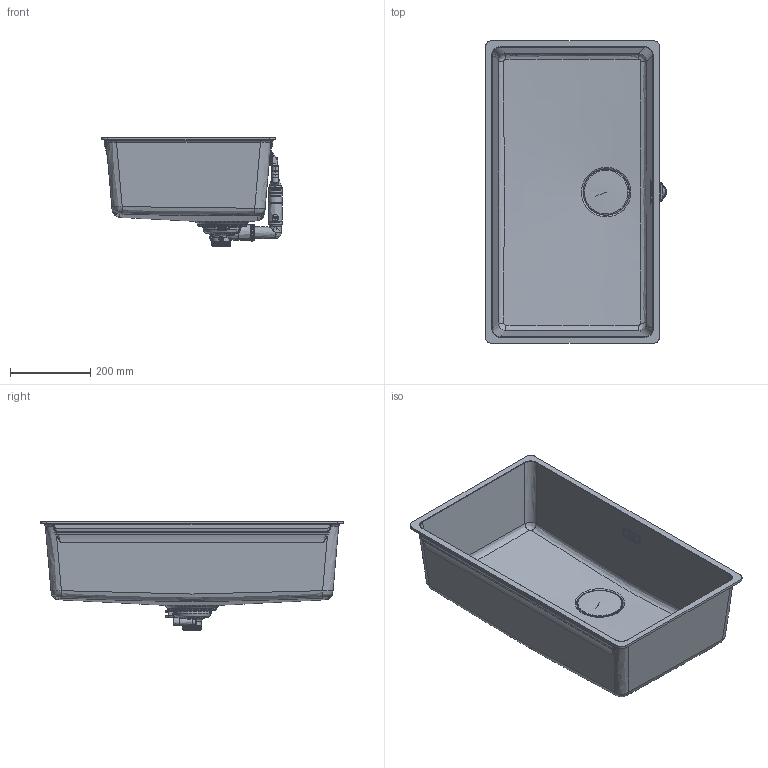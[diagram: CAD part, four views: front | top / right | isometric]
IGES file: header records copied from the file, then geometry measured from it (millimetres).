
Global section: file name: MRG 210-72; native system: Autodesk Inventor 2021; preprocessor: unknown; date: 20210929.141445; units: millimetre
Bounding box: 450.35 x 753 x 271.19 mm (x, y, z)
Volume: 5230785.9 mm3; surface area: 1586680.3 mm2
Topology: 20 solids, 21 shells, 5053 faces, 13574 edges, 8746 vertices
Faces by surface type: bspline 5053
